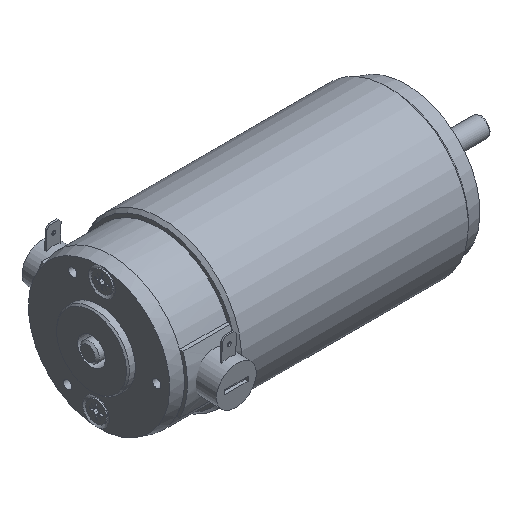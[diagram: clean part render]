
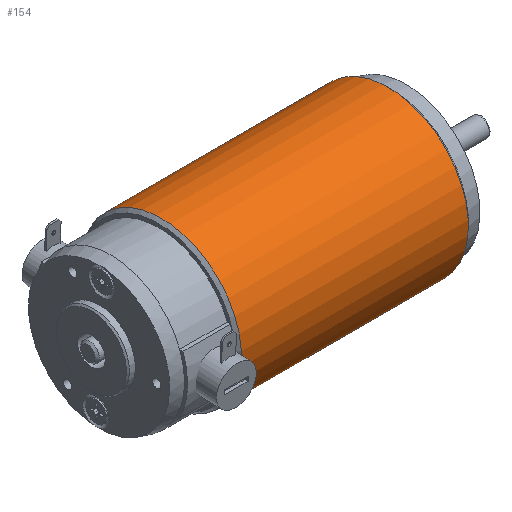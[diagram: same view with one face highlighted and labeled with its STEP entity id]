
A CAD part, isometric view. The second image highlights one B-rep face of the part: STEP entity #154.
In plain terms, the highlighted cylindrical face has radius 27 mm (diameter 54 mm), a full revolution.
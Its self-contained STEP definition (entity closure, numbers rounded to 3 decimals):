
#112=CARTESIAN_POINT('',(27.0,0.,1.0));
#113=VERTEX_POINT('',#112);
#114=CARTESIAN_POINT('',(0.0,0.0,1.0));
#115=DIRECTION('',(0.0,0.0,-1.0));
#116=DIRECTION('',(-1.0,0.0,0.0));
#117=AXIS2_PLACEMENT_3D('',#114,#115,#116);
#118=CIRCLE('',#117,27.0);
#119=EDGE_CURVE('',#113,#113,#118,.T.);
#135=CARTESIAN_POINT('',(0.0,0.0,0.0));
#136=DIRECTION('',(0.0,0.0,1.0));
#137=DIRECTION('',(-1.0,0.0,0.0));
#138=AXIS2_PLACEMENT_3D('',#135,#136,#137);
#139=CYLINDRICAL_SURFACE('',#138,27.0);
#140=CARTESIAN_POINT('',(27.0,0.,77.4));
#141=VERTEX_POINT('',#140);
#142=CARTESIAN_POINT('',(0.0,0.0,77.4));
#143=DIRECTION('',(0.0,0.0,1.0));
#144=DIRECTION('',(-1.0,0.0,0.0));
#145=AXIS2_PLACEMENT_3D('',#142,#143,#144);
#146=CIRCLE('',#145,27.0);
#147=EDGE_CURVE('',#141,#141,#146,.T.);
#148=ORIENTED_EDGE('',*,*,#147,.F.);
#149=EDGE_LOOP('',(#148));
#150=FACE_OUTER_BOUND('',#149,.T.);
#151=ORIENTED_EDGE('',*,*,#119,.F.);
#152=EDGE_LOOP('',(#151));
#153=FACE_BOUND('',#152,.T.);
#154=ADVANCED_FACE('',(#150,#153),#139,.T.);
